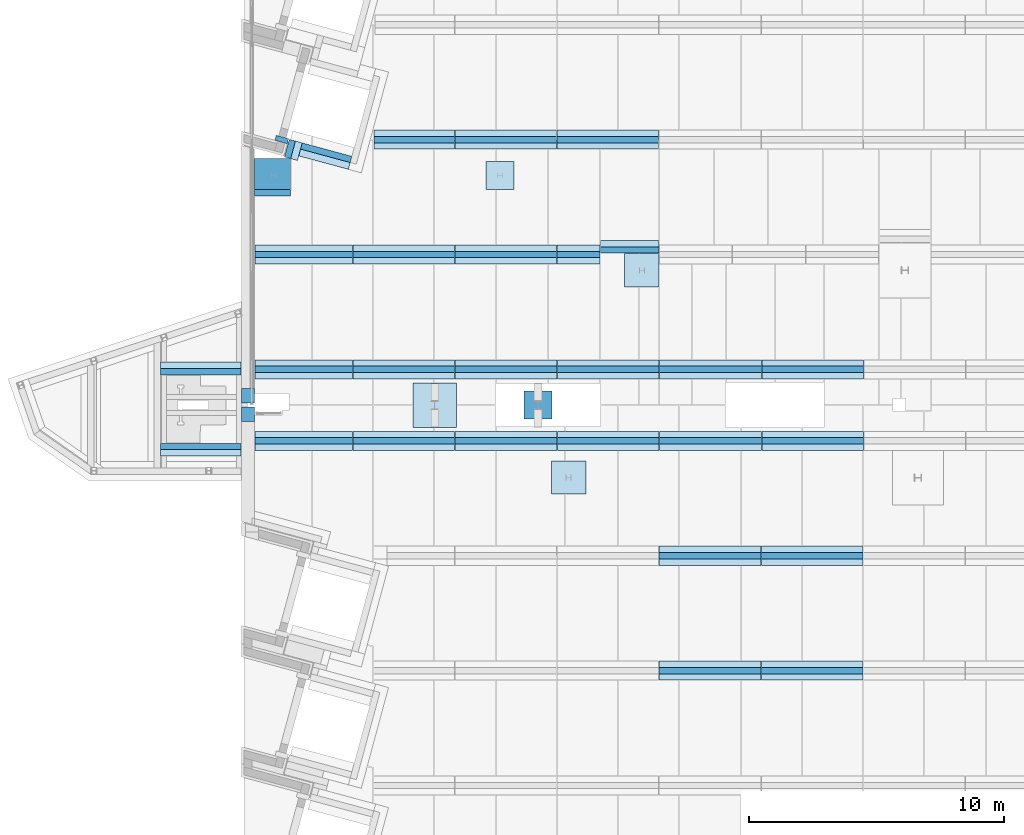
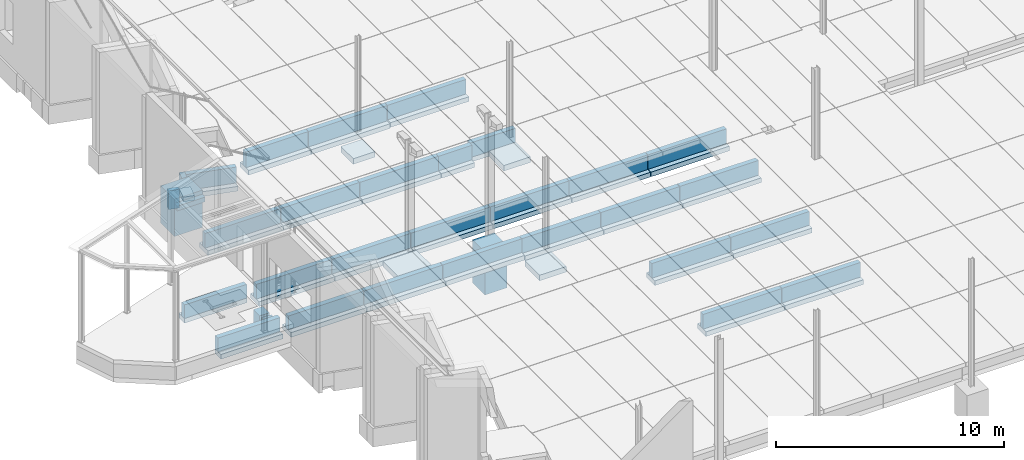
# One storey, part 2 of 59: 66 footings.
"""IFC2X3 building model written with IfcOpenShell, lengths in metres."""

from ifc_helpers import new_model, entity, si_unit, converted_unit, derived_unit, frame, frame_2d, origin, origin_with_axes, place, context, subcontext, project, spatial, rectangle, extrude, material, element, save


model = new_model("IFC2X3")

# Units and contexts
model_context = context("Model", 3, precision=1e-05, world=origin())
body_context = subcontext(model_context, "Body", "Model", "MODEL_VIEW")
ifc_project = project(units=[si_unit("LENGTHUNIT", "METRE"), si_unit("AREAUNIT", "SQUARE_METRE"), si_unit("VOLUMEUNIT", "CUBIC_METRE"), si_unit("MASSUNIT", "GRAM", prefix="KILO"), converted_unit("PLANEANGLEUNIT", "DEGREE", entity("IfcPlaneAngleMeasure", 0.0174532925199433), si_unit("PLANEANGLEUNIT", "RADIAN"), dimensions=[0, 0, 0, 0, 0, 0, 0]), derived_unit("THERMALTRANSMITTANCEUNIT", [(si_unit("POWERUNIT", "WATT"), 1), (si_unit("THERMODYNAMICTEMPERATUREUNIT", "KELVIN"), -1), (si_unit("LENGTHUNIT", "METRE"), -2)]), derived_unit("VOLUMETRICFLOWRATEUNIT", [(si_unit("LENGTHUNIT", "METRE"), 3), (converted_unit("TIMEUNIT", "hour", entity("IfcTimeMeasure", 3600.0), si_unit("TIMEUNIT", "SECOND"), dimensions=[0, 0, 1, 0, 0, 0, 0]), -1), (si_unit("LENGTHUNIT", "METRE"), -1)])], contexts=[model_context])

# Site, building, storey
site_placement = place(None, origin())
site = spatial("IfcSite", under=ifc_project, at=site_placement, Name="TWP_Speiseverteilzentrum SBW VZ II", CompositionType="ELEMENT")
building_placement = place(site_placement, origin())
building = spatial("IfcBuilding", under=site, at=building_placement, Name="Speiseverteilzentrum SBW VZ II", CompositionType="ELEMENT")
storey_placement = place(building_placement, frame((0.0, 0.0, 1.7307)))
storey = spatial("IfcBuildingStorey", under=building, at=storey_placement, Name="EG_Produktion_FFB", CompositionType="ELEMENT", Elevation=1.7307)

# Footings
ifc_material_1 = material(Name="Stahlbeton")
footing_1_placement = place(storey_placement, frame((15.9523755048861, 29.9251031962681, -1.45)))
element("IfcFooting", 1, at=footing_1_placement, inside=storey, material=ifc_material_1, Name="Stb.-Einzelfundament", ObjectType="COLUMN_FOUNDATION", PredefinedType="USERDEFINED", context=body_context, shape_type="SweptSolid", body=[
    extrude(rectangle(XDim=1.7, YDim=1.75, at=frame_2d((0.85, 0.875), x_axis=(1.0, 0.0))), origin_with_axes(), (0.0, 0.0, 1.0), 0.3),
])
ifc_material_2 = material(Name="Stahlbeton")
footing_2_placement = place(storey_placement, frame((18.8149133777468, 39.2498118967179, -1.55)))
element("IfcFooting", 2, at=footing_2_placement, inside=storey, material=ifc_material_2, Name="Stb.-Einzelfundament", ObjectType="COLUMN_FOUNDATION", PredefinedType="USERDEFINED", context=body_context, shape_type="SweptSolid", body=[
    extrude(rectangle(XDim=1.1, YDim=1.1, at=frame_2d((0.55, 0.55), x_axis=(1.0, 0.0))), origin_with_axes(), (0.0, 0.0, 1.0), 0.3),
])
ifc_material_3 = material(Name="Stahlbeton")
footing_3_placement = place(storey_placement, frame((21.3750000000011, 27.3099286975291, -1.45)))
element("IfcFooting", 3, at=footing_3_placement, inside=storey, material=ifc_material_3, Name="Stb.-Einzelfundament", ObjectType="COLUMN_FOUNDATION", PredefinedType="USERDEFINED", context=body_context, shape_type="SweptSolid", body=[
    extrude(rectangle(XDim=1.35, YDim=1.3, at=frame_2d((0.675, 0.65), x_axis=(1.0, 0.0))), origin_with_axes(), (0.0, 0.0, 1.0), 0.3),
])
ifc_material_4 = material(Name="Stahlbetonfertigteil")
footing_4_placement = place(storey_placement, frame((13.5999999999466, 29.2750000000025, -1.2)))
element("IfcFooting", 4, at=footing_4_placement, inside=storey, material=ifc_material_4, Name="Stahlbetonfertigteilfundament", PredefinedType="STRIP_FOOTING", context=body_context, shape_type="SweptSolid", body=[
    extrude(rectangle(XDim=0.25, YDim=0.73, at=frame_2d((0.125, 0.365), x_axis=(1.0, 0.0))), frame((0.0, 0.0, 0.0), z_axis=(1.0, 0.0, 0.0), x_axis=(0.0, 1.0, 0.0)), (0.0, 0.0, 1.0), 3.98),
])
ifc_material_5 = material(Name="Stahlbetonfertigteil")
footing_5_placement = place(storey_placement, frame((13.5999999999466, 29.0250000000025, -1.45)))
element("IfcFooting", 5, at=footing_5_placement, inside=storey, material=ifc_material_5, Name="Stahlbetonfertigteilfundament", PredefinedType="STRIP_FOOTING", context=body_context, shape_type="SweptSolid", body=[
    extrude(rectangle(XDim=0.75, YDim=0.25, at=frame_2d((0.375, 0.125), x_axis=(1.0, 0.0))), frame((0.0, 0.0, 0.0), z_axis=(1.0, 0.0, 0.0), x_axis=(0.0, 1.0, 0.0)), (0.0, 0.0, 1.0), 3.98),
])
ifc_material_6 = material(Name="Stahlbetonfertigteil")
footing_6_placement = place(storey_placement, frame((29.5999999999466, 24.5250000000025, -1.45)))
element("IfcFooting", 6, at=footing_6_placement, inside=storey, material=ifc_material_6, Name="Stahlbetonfertigteilfundament", PredefinedType="STRIP_FOOTING", context=body_context, shape_type="SweptSolid", body=[
    extrude(rectangle(XDim=0.75, YDim=0.25, at=frame_2d((0.375, 0.125), x_axis=(1.0, 0.0))), frame((0.0, 0.0, 0.0), z_axis=(1.0, 0.0, 0.0), x_axis=(0.0, 1.0, 0.0)), (0.0, 0.0, 1.0), 3.98),
])
ifc_material_7 = material(Name="Stahlbetonfertigteil")
footing_7_placement = place(storey_placement, frame((29.5999999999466, 24.7750000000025, -1.2)))
element("IfcFooting", 7, at=footing_7_placement, inside=storey, material=ifc_material_7, Name="Stahlbetonfertigteilfundament", PredefinedType="STRIP_FOOTING", context=body_context, shape_type="SweptSolid", body=[
    extrude(rectangle(XDim=0.25, YDim=0.73, at=frame_2d((0.125, 0.365), x_axis=(1.0, 0.0))), frame((0.0, 0.0, 0.0), z_axis=(1.0, 0.0, 0.0), x_axis=(0.0, 1.0, 0.0)), (0.0, 0.0, 1.0), 3.98),
])
ifc_material_8 = material(Name="Stahlbetonfertigteil")
footing_8_placement = place(storey_placement, frame((25.5999999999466, 24.5250000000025, -1.5)))
element("IfcFooting", 8, at=footing_8_placement, inside=storey, material=ifc_material_8, Name="Stahlbetonfertigteilfundament", PredefinedType="STRIP_FOOTING", context=body_context, shape_type="SweptSolid", body=[
    extrude(rectangle(XDim=0.75, YDim=0.25, at=frame_2d((0.375, 0.125), x_axis=(1.0, 0.0))), frame((0.0, 0.0, 0.0), z_axis=(1.0, 0.0, 0.0), x_axis=(0.0, 1.0, 0.0)), (0.0, 0.0, 1.0), 3.98),
])
ifc_material_9 = material(Name="Stahlbetonfertigteil")
footing_9_placement = place(storey_placement, frame((25.5999999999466, 24.7750000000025, -1.25)))
element("IfcFooting", 9, at=footing_9_placement, inside=storey, material=ifc_material_9, Name="Stahlbetonfertigteilfundament", PredefinedType="STRIP_FOOTING", context=body_context, shape_type="SweptSolid", body=[
    extrude(rectangle(XDim=0.25, YDim=0.78, at=frame_2d((0.125, 0.39), x_axis=(1.0, 0.0))), frame((0.0, 0.0, 0.0), z_axis=(1.0, 0.0, 0.0), x_axis=(0.0, 1.0, 0.0)), (0.0, 0.0, 1.0), 3.98),
])
ifc_material_10 = material(Name="Stahlbetonfertigteil")
footing_10_placement = place(storey_placement, frame((29.5999999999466, 20.0250000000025, -1.5)))
element("IfcFooting", 10, at=footing_10_placement, inside=storey, material=ifc_material_10, Name="Stahlbetonfertigteilfundament", PredefinedType="STRIP_FOOTING", context=body_context, shape_type="SweptSolid", body=[
    extrude(rectangle(XDim=0.75, YDim=0.25, at=frame_2d((0.375, 0.125), x_axis=(1.0, 0.0))), frame((0.0, 0.0, 0.0), z_axis=(1.0, 0.0, 0.0), x_axis=(0.0, 1.0, 0.0)), (0.0, 0.0, 1.0), 3.98),
])
ifc_material_11 = material(Name="Stahlbetonfertigteil")
footing_11_placement = place(storey_placement, frame((29.5999999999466, 20.2750000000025, -1.25)))
element("IfcFooting", 11, at=footing_11_placement, inside=storey, material=ifc_material_11, Name="Stahlbetonfertigteilfundament", PredefinedType="STRIP_FOOTING", context=body_context, shape_type="SweptSolid", body=[
    extrude(rectangle(XDim=0.25, YDim=0.78, at=frame_2d((0.125, 0.39), x_axis=(1.0, 0.0))), frame((0.0, 0.0, 0.0), z_axis=(1.0, 0.0, 0.0), x_axis=(0.0, 1.0, 0.0)), (0.0, 0.0, 1.0), 3.98),
])
ifc_material_12 = material(Name="Stahlbetonfertigteil")
footing_12_placement = place(storey_placement, frame((25.5999999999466, 20.0250000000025, -1.5)))
element("IfcFooting", 12, at=footing_12_placement, inside=storey, material=ifc_material_12, Name="Stahlbetonfertigteilfundament", PredefinedType="STRIP_FOOTING", context=body_context, shape_type="SweptSolid", body=[
    extrude(rectangle(XDim=0.75, YDim=0.25, at=frame_2d((0.375, 0.125), x_axis=(1.0, 0.0))), frame((0.0, 0.0, 0.0), z_axis=(1.0, 0.0, 0.0), x_axis=(0.0, 1.0, 0.0)), (0.0, 0.0, 1.0), 3.98),
])
ifc_material_13 = material(Name="Stahlbetonfertigteil")
footing_13_placement = place(storey_placement, frame((25.5999999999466, 20.2750000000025, -1.25)))
element("IfcFooting", 13, at=footing_13_placement, inside=storey, material=ifc_material_13, Name="Stahlbetonfertigteilfundament", PredefinedType="STRIP_FOOTING", context=body_context, shape_type="SweptSolid", body=[
    extrude(rectangle(XDim=0.25, YDim=0.78, at=frame_2d((0.125, 0.39), x_axis=(1.0, 0.0))), frame((0.0, 0.0, 0.0), z_axis=(1.0, 0.0, 0.0), x_axis=(0.0, 1.0, 0.0)), (0.0, 0.0, 1.0), 3.98),
])
ifc_material_14 = material(Name="Stahlbetonfertigteil")
footing_14_placement = place(storey_placement, frame((13.5999999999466, 32.0750000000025, -1.25)))
element("IfcFooting", 14, at=footing_14_placement, inside=storey, material=ifc_material_14, Name="Stahlbetonfertigteilfundament", PredefinedType="STRIP_FOOTING", context=body_context, shape_type="SweptSolid", body=[
    extrude(rectangle(XDim=0.25, YDim=0.78, at=frame_2d((0.125, 0.39), x_axis=(1.0, 0.0))), frame((0.0, 0.0, 0.0), z_axis=(1.0, 0.0, 0.0), x_axis=(0.0, 1.0, 0.0)), (0.0, 0.0, 1.0), 3.98),
])
ifc_material_15 = material(Name="Stahlbetonfertigteil")
footing_15_placement = place(storey_placement, frame((13.5999999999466, 31.8250000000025, -1.5)))
element("IfcFooting", 15, at=footing_15_placement, inside=storey, material=ifc_material_15, Name="Stahlbetonfertigteilfundament", PredefinedType="STRIP_FOOTING", context=body_context, shape_type="SweptSolid", body=[
    extrude(rectangle(XDim=0.75, YDim=0.25, at=frame_2d((0.375, 0.125), x_axis=(1.0, 0.0))), frame((0.0, 0.0, 0.0), z_axis=(1.0, 0.0, 0.0), x_axis=(0.0, 1.0, 0.0)), (0.0, 0.0, 1.0), 3.98),
])
ifc_material_16 = material(Name="Stahlbetonfertigteil")
footing_16_placement = place(storey_placement, frame((25.6199999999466, 29.2750000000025, -1.25)))
element("IfcFooting", 16, at=footing_16_placement, inside=storey, material=ifc_material_16, Name="Stahlbetonfertigteilfundament", PredefinedType="STRIP_FOOTING", context=body_context, shape_type="SweptSolid", body=[
    extrude(rectangle(XDim=0.25, YDim=0.78, at=frame_2d((0.125, 0.39), x_axis=(1.0, 0.0))), frame((0.0, 0.0, 0.0), z_axis=(1.0, 0.0, 0.0), x_axis=(0.0, 1.0, 0.0)), (0.0, 0.0, 1.0), 3.98),
])
ifc_material_17 = material(Name="Stahlbetonfertigteil")
footing_17_placement = place(storey_placement, frame((29.6199999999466, 29.2750000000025, -1.25)))
element("IfcFooting", 17, at=footing_17_placement, inside=storey, material=ifc_material_17, Name="Stahlbetonfertigteilfundament", PredefinedType="STRIP_FOOTING", context=body_context, shape_type="SweptSolid", body=[
    extrude(rectangle(XDim=0.25, YDim=0.78, at=frame_2d((0.125, 0.39), x_axis=(1.0, 0.0))), frame((0.0, 0.0, 0.0), z_axis=(1.0, 0.0, 0.0), x_axis=(0.0, 1.0, 0.0)), (0.0, 0.0, 1.0), 3.98),
])
ifc_material_18 = material(Name="Stahlbetonfertigteil")
footing_18_placement = place(storey_placement, frame((29.6199999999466, 29.0250000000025, -1.5)))
element("IfcFooting", 18, at=footing_18_placement, inside=storey, material=ifc_material_18, Name="Stahlbetonfertigteilfundament", PredefinedType="STRIP_FOOTING", context=body_context, shape_type="SweptSolid", body=[
    extrude(rectangle(XDim=0.75, YDim=0.25, at=frame_2d((0.375, 0.125), x_axis=(1.0, 0.0))), frame((0.0, 0.0, 0.0), z_axis=(1.0, 0.0, 0.0), x_axis=(0.0, 1.0, 0.0)), (0.0, 0.0, 1.0), 3.98),
])
ifc_material_19 = material(Name="Stahlbetonfertigteil")
footing_19_placement = place(storey_placement, frame((25.6199999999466, 29.0250000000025, -1.5)))
element("IfcFooting", 19, at=footing_19_placement, inside=storey, material=ifc_material_19, Name="Stahlbetonfertigteilfundament", PredefinedType="STRIP_FOOTING", context=body_context, shape_type="SweptSolid", body=[
    extrude(rectangle(XDim=0.75, YDim=0.25, at=frame_2d((0.375, 0.125), x_axis=(1.0, 0.0))), frame((0.0, 0.0, 0.0), z_axis=(1.0, 0.0, 0.0), x_axis=(0.0, 1.0, 0.0)), (0.0, 0.0, 1.0), 3.98),
])
ifc_material_20 = material(Name="Stahlbetonfertigteil")
footing_20_placement = place(storey_placement, frame((29.6200000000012, 31.8250000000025, -1.5)))
element("IfcFooting", 20, at=footing_20_placement, inside=storey, material=ifc_material_20, Name="Stahlbetonfertigteilfundament", PredefinedType="STRIP_FOOTING", context=body_context, shape_type="SweptSolid", body=[
    extrude(rectangle(XDim=0.75, YDim=0.25, at=frame_2d((0.375, 0.125), x_axis=(1.0, 0.0))), frame((0.0, 0.0, 0.0), z_axis=(1.0, 0.0, 0.0), x_axis=(0.0, 1.0, 0.0)), (0.0, 0.0, 1.0), 3.98),
])
ifc_material_21 = material(Name="Stahlbetonfertigteil")
footing_21_placement = place(storey_placement, frame((29.6200000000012, 32.0750000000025, -1.25)))
element("IfcFooting", 21, at=footing_21_placement, inside=storey, material=ifc_material_21, Name="Stahlbetonfertigteilfundament", PredefinedType="STRIP_FOOTING", context=body_context, shape_type="SweptSolid", body=[
    extrude(rectangle(XDim=0.25, YDim=0.78, at=frame_2d((0.125, 0.39), x_axis=(1.0, 0.0))), frame((0.0, 0.0, 0.0), z_axis=(1.0, 0.0, 0.0), x_axis=(0.0, 1.0, 0.0)), (0.0, 0.0, 1.0), 3.98),
])
ifc_material_22 = material(Name="Stahlbetonfertigteil")
footing_22_placement = place(storey_placement, frame((25.6200000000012, 32.0750000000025, -1.25)))
element("IfcFooting", 22, at=footing_22_placement, inside=storey, material=ifc_material_22, Name="Stahlbetonfertigteilfundament", PredefinedType="STRIP_FOOTING", context=body_context, shape_type="SweptSolid", body=[
    extrude(rectangle(XDim=0.25, YDim=0.78, at=frame_2d((0.125, 0.39), x_axis=(1.0, 0.0))), frame((0.0, 0.0, 0.0), z_axis=(1.0, 0.0, 0.0), x_axis=(0.0, 1.0, 0.0)), (0.0, 0.0, 1.0), 3.98),
])
ifc_material_23 = material(Name="Stahlbetonfertigteil")
footing_23_placement = place(storey_placement, frame((25.6200000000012, 31.8250000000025, -1.5)))
element("IfcFooting", 23, at=footing_23_placement, inside=storey, material=ifc_material_23, Name="Stahlbetonfertigteilfundament", PredefinedType="STRIP_FOOTING", context=body_context, shape_type="SweptSolid", body=[
    extrude(rectangle(XDim=0.75, YDim=0.25, at=frame_2d((0.375, 0.125), x_axis=(1.0, 0.0))), frame((0.0, 0.0, 0.0), z_axis=(1.0, 0.0, 0.0), x_axis=(0.0, 1.0, 0.0)), (0.0, 0.0, 1.0), 3.98),
])
ifc_material_24 = material(Name="Stahlbetonfertigteil")
footing_24_placement = place(storey_placement, frame((21.6200000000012, 31.8250000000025, -1.5)))
element("IfcFooting", 24, at=footing_24_placement, inside=storey, material=ifc_material_24, Name="Stahlbetonfertigteilfundament", PredefinedType="STRIP_FOOTING", context=body_context, shape_type="SweptSolid", body=[
    extrude(rectangle(XDim=0.75, YDim=0.25, at=frame_2d((0.375, 0.125), x_axis=(1.0, 0.0))), frame((0.0, 0.0, 0.0), z_axis=(1.0, 0.0, 0.0), x_axis=(0.0, 1.0, 0.0)), (0.0, 0.0, 1.0), 3.98),
])
ifc_material_25 = material(Name="Stahlbetonfertigteil")
footing_25_placement = place(storey_placement, frame((21.6200000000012, 32.0750000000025, -1.25)))
element("IfcFooting", 25, at=footing_25_placement, inside=storey, material=ifc_material_25, Name="Stahlbetonfertigteilfundament", PredefinedType="STRIP_FOOTING", context=body_context, shape_type="SweptSolid", body=[
    extrude(rectangle(XDim=0.25, YDim=0.78, at=frame_2d((0.125, 0.39), x_axis=(1.0, 0.0))), frame((0.0, 0.0, 0.0), z_axis=(1.0, 0.0, 0.0), x_axis=(0.0, 1.0, 0.0)), (0.0, 0.0, 1.0), 3.98),
])
ifc_material_26 = material(Name="Stahlbetonfertigteil")
footing_26_placement = place(storey_placement, frame((21.6200000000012, 29.0250000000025, -1.5)))
element("IfcFooting", 26, at=footing_26_placement, inside=storey, material=ifc_material_26, Name="Stahlbetonfertigteilfundament", PredefinedType="STRIP_FOOTING", context=body_context, shape_type="SweptSolid", body=[
    extrude(rectangle(XDim=0.75, YDim=0.25, at=frame_2d((0.375, 0.125), x_axis=(1.0, 0.0))), frame((0.0, 0.0, 0.0), z_axis=(1.0, 0.0, 0.0), x_axis=(0.0, 1.0, 0.0)), (0.0, 0.0, 1.0), 3.97999999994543),
])
ifc_material_27 = material(Name="Stahlbetonfertigteil")
footing_27_placement = place(storey_placement, frame((21.6200000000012, 29.2750000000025, -1.25)))
element("IfcFooting", 27, at=footing_27_placement, inside=storey, material=ifc_material_27, Name="Stahlbetonfertigteilfundament", PredefinedType="STRIP_FOOTING", context=body_context, shape_type="SweptSolid", body=[
    extrude(rectangle(XDim=0.25, YDim=0.78, at=frame_2d((0.125, 0.39), x_axis=(1.0, 0.0))), frame((0.0, 0.0, 0.0), z_axis=(1.0, 0.0, 0.0), x_axis=(0.0, 1.0, 0.0)), (0.0, 0.0, 1.0), 3.97999999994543),
])
ifc_material_28 = material(Name="Stahlbetonfertigteil")
footing_28_placement = place(storey_placement, frame((17.5999999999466, 29.2750000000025, -1.2)))
element("IfcFooting", 28, at=footing_28_placement, inside=storey, material=ifc_material_28, Name="Stahlbetonfertigteilfundament", PredefinedType="STRIP_FOOTING", context=body_context, shape_type="SweptSolid", body=[
    extrude(rectangle(XDim=0.25, YDim=0.73, at=frame_2d((0.125, 0.365), x_axis=(1.0, 0.0))), frame((0.0, 0.0, 0.0), z_axis=(1.0, 0.0, 0.0), x_axis=(0.0, 1.0, 0.0)), (0.0, 0.0, 1.0), 4.0),
])
ifc_material_29 = material(Name="Stahlbetonfertigteil")
footing_29_placement = place(storey_placement, frame((17.5999999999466, 29.0250000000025, -1.45)))
element("IfcFooting", 29, at=footing_29_placement, inside=storey, material=ifc_material_29, Name="Stahlbetonfertigteilfundament", PredefinedType="STRIP_FOOTING", context=body_context, shape_type="SweptSolid", body=[
    extrude(rectangle(XDim=0.75, YDim=0.25, at=frame_2d((0.375, 0.125), x_axis=(1.0, 0.0))), frame((0.0, 0.0, 0.0), z_axis=(1.0, 0.0, 0.0), x_axis=(0.0, 1.0, 0.0)), (0.0, 0.0, 1.0), 4.0),
])
ifc_material_30 = material(Name="Stahlbetonfertigteil")
footing_30_placement = place(storey_placement, frame((17.5999999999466, 32.0750000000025, -1.25)))
element("IfcFooting", 30, at=footing_30_placement, inside=storey, material=ifc_material_30, Name="Stahlbetonfertigteilfundament", PredefinedType="STRIP_FOOTING", context=body_context, shape_type="SweptSolid", body=[
    extrude(rectangle(XDim=0.25, YDim=0.78, at=frame_2d((0.125, 0.39), x_axis=(1.0, 0.0))), frame((0.0, 0.0, 0.0), z_axis=(1.0, 0.0, 0.0), x_axis=(0.0, 1.0, 0.0)), (0.0, 0.0, 1.0), 4.0),
])
ifc_material_31 = material(Name="Stahlbetonfertigteil")
footing_31_placement = place(storey_placement, frame((17.5999999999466, 31.8250000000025, -1.5)))
element("IfcFooting", 31, at=footing_31_placement, inside=storey, material=ifc_material_31, Name="Stahlbetonfertigteilfundament", PredefinedType="STRIP_FOOTING", context=body_context, shape_type="SweptSolid", body=[
    extrude(rectangle(XDim=0.75, YDim=0.25, at=frame_2d((0.375, 0.125), x_axis=(1.0, 0.0))), frame((0.0, 0.0, 0.0), z_axis=(1.0, 0.0, 0.0), x_axis=(0.0, 1.0, 0.0)), (0.0, 0.0, 1.0), 4.0),
])
ifc_material_32 = material(Name="Stahlbetonfertigteil")
footing_32_placement = place(storey_placement, frame((17.5999999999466, 36.5750000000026, -1.25)))
element("IfcFooting", 32, at=footing_32_placement, inside=storey, material=ifc_material_32, Name="Stahlbetonfertigteilfundament", PredefinedType="STRIP_FOOTING", context=body_context, shape_type="SweptSolid", body=[
    extrude(rectangle(XDim=0.25, YDim=0.78, at=frame_2d((0.125, 0.39), x_axis=(1.0, 0.0))), frame((0.0, 0.0, 0.0), z_axis=(1.0, 0.0, 0.0), x_axis=(0.0, 1.0, 0.0)), (0.0, 0.0, 1.0), 3.98000000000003),
])
ifc_material_33 = material(Name="Stahlbetonfertigteil")
footing_33_placement = place(storey_placement, frame((17.5999999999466, 36.3250000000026, -1.5)))
element("IfcFooting", 33, at=footing_33_placement, inside=storey, material=ifc_material_33, Name="Stahlbetonfertigteilfundament", PredefinedType="STRIP_FOOTING", context=body_context, shape_type="SweptSolid", body=[
    extrude(rectangle(XDim=0.75, YDim=0.25, at=frame_2d((0.375, 0.125), x_axis=(1.0, 0.0))), frame((0.0, 0.0, 0.0), z_axis=(1.0, 0.0, 0.0), x_axis=(0.0, 1.0, 0.0)), (0.0, 0.0, 1.0), 3.98000000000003),
])
ifc_material_34 = material(Name="Stahlbetonfertigteil")
footing_34_placement = place(storey_placement, frame((13.5999999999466, 36.5750000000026, -1.25)))
element("IfcFooting", 34, at=footing_34_placement, inside=storey, material=ifc_material_34, Name="Stahlbetonfertigteilfundament", PredefinedType="STRIP_FOOTING", context=body_context, shape_type="SweptSolid", body=[
    extrude(rectangle(XDim=0.25, YDim=0.78, at=frame_2d((0.125, 0.39), x_axis=(1.0, 0.0))), frame((0.0, 0.0, 0.0), z_axis=(1.0, 0.0, 0.0), x_axis=(0.0, 1.0, 0.0)), (0.0, 0.0, 1.0), 3.98),
])
ifc_material_35 = material(Name="Stahlbetonfertigteil")
footing_35_placement = place(storey_placement, frame((13.5999999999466, 36.3250000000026, -1.5)))
element("IfcFooting", 35, at=footing_35_placement, inside=storey, material=ifc_material_35, Name="Stahlbetonfertigteilfundament", PredefinedType="STRIP_FOOTING", context=body_context, shape_type="SweptSolid", body=[
    extrude(rectangle(XDim=0.75, YDim=0.25, at=frame_2d((0.375, 0.125), x_axis=(1.0, 0.0))), frame((0.0, 0.0, 0.0), z_axis=(1.0, 0.0, 0.0), x_axis=(0.0, 1.0, 0.0)), (0.0, 0.0, 1.0), 3.98),
])
ifc_material_36 = material(Name="Stahlbetonfertigteil")
footing_36_placement = place(storey_placement, frame((21.5999999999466, 41.0750000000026, -1.25)))
element("IfcFooting", 36, at=footing_36_placement, inside=storey, material=ifc_material_36, Name="Stahlbetonfertigteilfundament", PredefinedType="STRIP_FOOTING", context=body_context, shape_type="SweptSolid", body=[
    extrude(rectangle(XDim=0.25, YDim=0.78, at=frame_2d((0.125, 0.39), x_axis=(1.0, 0.0))), frame((0.0, 0.0, 0.0), z_axis=(1.0, 0.0, 0.0), x_axis=(0.0, 1.0, 0.0)), (0.0, 0.0, 1.0), 3.98),
])
ifc_material_37 = material(Name="Stahlbetonfertigteil")
footing_37_placement = place(storey_placement, frame((21.5999999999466, 40.8250000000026, -1.5)))
element("IfcFooting", 37, at=footing_37_placement, inside=storey, material=ifc_material_37, Name="Stahlbetonfertigteilfundament", PredefinedType="STRIP_FOOTING", context=body_context, shape_type="SweptSolid", body=[
    extrude(rectangle(XDim=0.75, YDim=0.25, at=frame_2d((0.375, 0.125), x_axis=(1.0, 0.0))), frame((0.0, 0.0, 0.0), z_axis=(1.0, 0.0, 0.0), x_axis=(0.0, 1.0, 0.0)), (0.0, 0.0, 1.0), 3.98),
])
ifc_material_38 = material(Name="Stahlbetonfertigteil")
footing_38_placement = place(storey_placement, frame((17.5999999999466, 40.8250000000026, -1.55)))
element("IfcFooting", 38, at=footing_38_placement, inside=storey, material=ifc_material_38, Name="Stahlbetonfertigteilfundament", PredefinedType="STRIP_FOOTING", context=body_context, shape_type="SweptSolid", body=[
    extrude(rectangle(XDim=0.75, YDim=0.25, at=frame_2d((0.375, 0.125), x_axis=(1.0, 0.0))), frame((0.0, 0.0, 0.0), z_axis=(1.0, 0.0, 0.0), x_axis=(0.0, 1.0, 0.0)), (0.0, 0.0, 1.0), 3.98),
])
ifc_material_39 = material(Name="Stahlbetonfertigteil")
footing_39_placement = place(storey_placement, frame((17.5999999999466, 41.0750000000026, -1.3)))
element("IfcFooting", 39, at=footing_39_placement, inside=storey, material=ifc_material_39, Name="Stahlbetonfertigteilfundament", PredefinedType="STRIP_FOOTING", context=body_context, shape_type="SweptSolid", body=[
    extrude(rectangle(XDim=0.25, YDim=0.83, at=frame_2d((0.125, 0.415), x_axis=(1.0, 0.0))), frame((0.0, 0.0, 0.0), z_axis=(1.0, 0.0, 0.0), x_axis=(0.0, 1.0, 0.0)), (0.0, 0.0, 1.0), 3.98),
])
ifc_material_40 = material(Name="Stahlbetonfertigteil")
footing_40_placement = place(storey_placement, frame((9.7599999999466, 31.8250000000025, -1.5)))
element("IfcFooting", 40, at=footing_40_placement, inside=storey, material=ifc_material_40, Name="Stahlbetonfertigteilfundament", PredefinedType="STRIP_FOOTING", context=body_context, shape_type="SweptSolid", body=[
    extrude(rectangle(XDim=0.75, YDim=0.25, at=frame_2d((0.375, 0.125), x_axis=(1.0, 0.0))), frame((0.0, 0.0, 0.0), z_axis=(1.0, 0.0, 0.0), x_axis=(0.0, 1.0, 0.0)), (0.0, 0.0, 1.0), 3.82),
])
ifc_material_41 = material(Name="Stahlbetonfertigteil")
footing_41_placement = place(storey_placement, frame((9.7599999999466, 32.0750000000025, -1.25)))
element("IfcFooting", 41, at=footing_41_placement, inside=storey, material=ifc_material_41, Name="Stahlbetonfertigteilfundament", PredefinedType="STRIP_FOOTING", context=body_context, shape_type="SweptSolid", body=[
    extrude(rectangle(XDim=0.25, YDim=0.78, at=frame_2d((0.125, 0.39), x_axis=(1.0, 0.0))), frame((0.0, 0.0, 0.0), z_axis=(1.0, 0.0, 0.0), x_axis=(0.0, 1.0, 0.0)), (0.0, 0.0, 1.0), 3.82),
])
ifc_material_42 = material(Name="Stahlbetonfertigteil")
footing_42_placement = place(storey_placement, frame((9.7599999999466, 29.0250000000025, -1.45)))
element("IfcFooting", 42, at=footing_42_placement, inside=storey, material=ifc_material_42, Name="Stahlbetonfertigteilfundament", PredefinedType="STRIP_FOOTING", context=body_context, shape_type="SweptSolid", body=[
    extrude(rectangle(XDim=0.75, YDim=0.25, at=frame_2d((0.375, 0.125), x_axis=(1.0, 0.0))), frame((0.0, 0.0, 0.0), z_axis=(1.0, 0.0, 0.0), x_axis=(0.0, 1.0, 0.0)), (0.0, 0.0, 1.0), 3.82),
])
ifc_material_43 = material(Name="Stahlbetonfertigteil")
footing_43_placement = place(storey_placement, frame((9.7599999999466, 29.2750000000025, -1.2)))
element("IfcFooting", 43, at=footing_43_placement, inside=storey, material=ifc_material_43, Name="Stahlbetonfertigteilfundament", PredefinedType="STRIP_FOOTING", context=body_context, shape_type="SweptSolid", body=[
    extrude(rectangle(XDim=0.25, YDim=0.73, at=frame_2d((0.125, 0.365), x_axis=(1.0, 0.0))), frame((0.0, 0.0, 0.0), z_axis=(1.0, 0.0, 0.0), x_axis=(0.0, 1.0, 0.0)), (0.0, 0.0, 1.0), 3.82),
])
ifc_material_44 = material(Name="Stahlbetonfertigteil")
footing_44_placement = place(storey_placement, frame((9.7599999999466, 36.3250000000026, -1.5)))
element("IfcFooting", 44, at=footing_44_placement, inside=storey, material=ifc_material_44, Name="Stahlbetonfertigteilfundament", PredefinedType="STRIP_FOOTING", context=body_context, shape_type="SweptSolid", body=[
    extrude(rectangle(XDim=0.75, YDim=0.25, at=frame_2d((0.375, 0.125), x_axis=(1.0, 0.0))), frame((0.0, 0.0, 0.0), z_axis=(1.0, 0.0, 0.0), x_axis=(0.0, 1.0, 0.0)), (0.0, 0.0, 1.0), 3.82),
])
ifc_material_45 = material(Name="Stahlbetonfertigteil")
footing_45_placement = place(storey_placement, frame((9.7599999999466, 36.5750000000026, -1.25)))
element("IfcFooting", 45, at=footing_45_placement, inside=storey, material=ifc_material_45, Name="Stahlbetonfertigteilfundament", PredefinedType="STRIP_FOOTING", context=body_context, shape_type="SweptSolid", body=[
    extrude(rectangle(XDim=0.25, YDim=0.78, at=frame_2d((0.125, 0.39), x_axis=(1.0, 0.0))), frame((0.0, 0.0, 0.0), z_axis=(1.0, 0.0, 0.0), x_axis=(0.0, 1.0, 0.0)), (0.0, 0.0, 1.0), 3.82),
])
ifc_material_46 = material(Name="Stahlbeton")
footing_46_placement = place(storey_placement, frame((20.3000000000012, 30.2501031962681, -3.62)))
element("IfcFooting", 46, at=footing_46_placement, inside=storey, material=ifc_material_46, Name="Stb.-Einzelfundament", ObjectType="COLUMN_FOUNDATION", PredefinedType="USERDEFINED", context=body_context, shape_type="SweptSolid", body=[
    extrude(rectangle(XDim=1.1, YDim=1.1, at=frame_2d((0.55, 0.549999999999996), x_axis=(1.0, 0.0))), origin_with_axes(), (0.0, 0.0, 1.0), 2.3),
])
ifc_material_47 = material(Name="Stahlbeton")
footing_47_placement = place(storey_placement, frame((24.2498606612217, 35.4298478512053, -1.5)))
element("IfcFooting", 47, at=footing_47_placement, inside=storey, material=ifc_material_47, Name="Stb.-Einzelfundament", ObjectType="COLUMN_FOUNDATION", PredefinedType="USERDEFINED", context=body_context, shape_type="SweptSolid", body=[
    extrude(rectangle(XDim=1.35, YDim=1.3, at=frame_2d((0.675, 0.65), x_axis=(1.0, 0.0))), origin_with_axes(), (0.0, 0.0, 1.0), 0.3),
])
ifc_material_48 = material(Name="Stahlbetonfertigteil")
footing_48_placement = place(storey_placement, frame((23.3011877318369, 36.7498478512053, -1.25)))
element("IfcFooting", 48, at=footing_48_placement, inside=storey, material=ifc_material_48, Name="Stahlbetonfertigteilfundament", PredefinedType="STRIP_FOOTING", context=body_context, shape_type="SweptSolid", body=[
    extrude(rectangle(XDim=0.25, YDim=0.78, at=frame_2d((0.125, 0.39), x_axis=(1.0, 0.0))), frame((0.0, 0.0, 0.0), z_axis=(1.0, 0.0, 0.0), x_axis=(0.0, 1.0, 0.0)), (0.0, 0.0, 1.0), 2.29867292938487),
])
ifc_material_49 = material(Name="Stahlbetonfertigteil")
footing_49_placement = place(storey_placement, frame((23.3011877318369, 36.7498478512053, -1.5)))
element("IfcFooting", 49, at=footing_49_placement, inside=storey, material=ifc_material_49, Name="Stahlbetonfertigteilfundament", PredefinedType="STRIP_FOOTING", context=body_context, shape_type="SweptSolid", body=[
    extrude(rectangle(XDim=0.500000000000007, YDim=0.25, at=frame_2d((0.250000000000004, 0.125), x_axis=(1.0, 0.0))), frame((0.0, 0.0, 0.0), z_axis=(1.0, 0.0, 0.0), x_axis=(0.0, 1.0, 0.0)), (0.0, 0.0, 1.0), 2.29867292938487),
])
ifc_material_50 = material(Name="Stahlbetonfertigteil")
footing_50_placement = place(storey_placement, frame((21.5999999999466, 36.5750000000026, -1.25)))
element("IfcFooting", 50, at=footing_50_placement, inside=storey, material=ifc_material_50, Name="Stahlbetonfertigteilfundament", PredefinedType="STRIP_FOOTING", context=body_context, shape_type="SweptSolid", body=[
    extrude(rectangle(XDim=0.25, YDim=0.78, at=frame_2d((0.125, 0.39), x_axis=(1.0, 0.0))), frame((0.0, 0.0, 0.0), z_axis=(1.0, 0.0, 0.0), x_axis=(0.0, 1.0, 0.0)), (0.0, 0.0, 1.0), 1.6811877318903),
])
ifc_material_51 = material(Name="Stahlbetonfertigteil")
footing_51_placement = place(storey_placement, frame((21.5999999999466, 36.3250000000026, -1.5)))
element("IfcFooting", 51, at=footing_51_placement, inside=storey, material=ifc_material_51, Name="Stahlbetonfertigteilfundament", PredefinedType="STRIP_FOOTING", context=body_context, shape_type="SweptSolid", body=[
    extrude(rectangle(XDim=0.75, YDim=0.25, at=frame_2d((0.375, 0.125), x_axis=(1.0, 0.0))), frame((0.0, 0.0, 0.0), z_axis=(1.0, 0.0, 0.0), x_axis=(0.0, 1.0, 0.0)), (0.0, 0.0, 1.0), 1.6811877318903),
])
ifc_material_52 = material(Name="Stahlbetonfertigteil")
footing_52_placement = place(storey_placement, frame((14.4218792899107, 40.8250000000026, -1.55)))
element("IfcFooting", 52, at=footing_52_placement, inside=storey, material=ifc_material_52, Name="Stahlbetonfertigteilfundament", PredefinedType="STRIP_FOOTING", context=body_context, shape_type="SweptSolid", body=[
    extrude(rectangle(XDim=0.75, YDim=0.25, at=frame_2d((0.375, 0.125), x_axis=(1.0, 0.0))), frame((0.0, 0.0, 0.0), z_axis=(1.0, 0.0, 0.0), x_axis=(0.0, 1.0, 0.0)), (0.0, 0.0, 1.0), 3.15812071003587),
])
ifc_material_53 = material(Name="Stahlbetonfertigteil")
footing_53_placement = place(storey_placement, frame((14.4218792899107, 41.0750000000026, -1.3)))
element("IfcFooting", 53, at=footing_53_placement, inside=storey, material=ifc_material_53, Name="Stahlbetonfertigteilfundament", PredefinedType="STRIP_FOOTING", context=body_context, shape_type="SweptSolid", body=[
    extrude(rectangle(XDim=0.25, YDim=0.83, at=frame_2d((0.125, 0.415), x_axis=(1.0, 0.0))), frame((0.0, 0.0, 0.0), z_axis=(1.0, 0.0, 0.0), x_axis=(0.0, 1.0, 0.0)), (0.0, 0.0, 1.0), 3.15812071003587),
])
ifc_material_54 = material(Name="Stahlbeton")
footing_54_placement = place(storey_placement, frame((10.6024305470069, 41.3636388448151, -2.25), z_axis=(0.0, 0.0, 1.0), x_axis=(-0.261013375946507, -0.965335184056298, 0.0)))
element("IfcFooting", 54, at=footing_54_placement, inside=storey, material=ifc_material_54, Name="Stb.-Streifenfundament", PredefinedType="STRIP_FOOTING", context=body_context, shape_type="SweptSolid", body=[
    extrude(rectangle(XDim=0.5, YDim=1.0, at=frame_2d((0.25, 0.5), x_axis=(1.0, 0.0))), frame((0.0, 0.0, 0.0), z_axis=(1.0, 0.0, 0.0), x_axis=(0.0, 1.0, 0.0)), (0.0, 0.0, 1.0), 0.200000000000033),
])
ifc_material_55 = material(Name="Stahlbeton")
footing_55_placement = place(storey_placement, frame((9.73999999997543, 30.1501094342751, -1.967), z_axis=(0.0, 0.0, 1.0), x_axis=(0.0, 1.0, 0.0)))
element("IfcFooting", 55, at=footing_55_placement, inside=storey, material=ifc_material_55, Name="Stb.-Streifenfundament", PredefinedType="STRIP_FOOTING", context=body_context, shape_type="SweptSolid", body=[
    extrude(rectangle(XDim=0.5, YDim=0.717, at=frame_2d((0.25, 0.3585), x_axis=(1.0, 0.0))), frame((0.0, 0.0, 0.0), z_axis=(1.0, 0.0, 0.0), x_axis=(0.0, 1.0, 0.0)), (0.0, 0.0, 1.0), 0.569643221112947),
])
ifc_material_56 = material(Name="Stahlbeton")
footing_56_placement = place(storey_placement, frame((9.73999999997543, 30.8847526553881, -1.967), z_axis=(0.0, 0.0, 1.0), x_axis=(0.0, 1.0, 0.0)))
element("IfcFooting", 56, at=footing_56_placement, inside=storey, material=ifc_material_56, Name="Stb.-Streifenfundament", PredefinedType="STRIP_FOOTING", context=body_context, shape_type="SweptSolid", body=[
    extrude(rectangle(XDim=0.5, YDim=0.717, at=frame_2d((0.25, 0.3585), x_axis=(1.0, 0.0))), frame((0.0, 0.0, 0.0), z_axis=(1.0, 0.0, 0.0), x_axis=(0.0, 1.0, 0.0)), (0.0, 0.0, 1.0), 0.565356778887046),
])
ifc_material_57 = material(Name="Stahlbeton")
footing_57_placement = place(storey_placement, frame((9.73999999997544, 39.2498118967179, -2.25)))
element("IfcFooting", 57, at=footing_57_placement, inside=storey, material=ifc_material_57, Name="Stb.-Einzelfundament", ObjectType="COLUMN_FOUNDATION", PredefinedType="USERDEFINED", context=body_context, shape_type="SweptSolid", body=[
    extrude(rectangle(XDim=1.42485222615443, YDim=1.20554183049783, at=frame_2d((0.712426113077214, 0.602770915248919), x_axis=(1.0, 5.1064647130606e-15))), origin_with_axes(), (0.0, 0.0, 1.0), 2.0),
])
ifc_material_58 = material(Name="Stahlbeton")
footing_58_placement = place(storey_placement, frame((11.1088379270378, 41.2059950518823, -1.57), z_axis=(0.0, 0.0, 1.0), x_axis=(-0.261013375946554, -0.965335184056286, 0.0)))
element("IfcFooting", 58, at=footing_58_placement, inside=storey, material=ifc_material_58, Name="Stb.-Fundament", PredefinedType="STRIP_FOOTING", context=body_context, shape_type="SweptSolid", body=[
    extrude(rectangle(XDim=0.525000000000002, YDim=0.25, at=frame_2d((0.262500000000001, 0.125), x_axis=(1.0, 0.0))), frame((0.0, 0.0, 0.0), z_axis=(1.0, 0.0, 0.0), x_axis=(0.0, 1.0, 0.0)), (0.0, 0.0, 1.0), 0.709999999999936),
])
ifc_material_59 = material(Name="Stahlbeton")
footing_59_placement = place(storey_placement, frame((13.5607892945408, 40.543021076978, -1.57), z_axis=(0.0, 0.0, 1.0), x_axis=(-0.965335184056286, 0.261013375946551, 0.0)))
element("IfcFooting", 59, at=footing_59_placement, inside=storey, material=ifc_material_59, Name="Stb.-Fundament", PredefinedType="STRIP_FOOTING", context=body_context, shape_type="SweptSolid", body=[
    extrude(rectangle(XDim=0.525, YDim=0.25, at=frame_2d((0.2625, 0.125), x_axis=(1.0, 0.0))), frame((0.0, 0.0, 0.0), z_axis=(1.0, 0.0, 0.0), x_axis=(0.0, 1.0, 0.0)), (0.0, 0.0, 1.0), 2.01499999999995),
])
ifc_material_60 = material(Name="Stahlbeton")
footing_60_placement = place(storey_placement, frame((11.1648522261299, 40.4553537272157, -1.32), z_axis=(0.0, 0.0, 1.0), x_axis=(0.26101337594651, 0.965335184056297, 0.0)))
element("IfcFooting", 60, at=footing_60_placement, inside=storey, material=ifc_material_60, Name="Stb.-Fundament", PredefinedType="STRIP_FOOTING", context=body_context, shape_type="SweptSolid", body=[
    extrude(rectangle(XDim=0.249999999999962, YDim=0.85, at=frame_2d((0.124999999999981, 0.425), x_axis=(1.0, 0.0))), frame((0.0, 0.0, 0.0), z_axis=(1.0, 0.0, 0.0), x_axis=(0.0, 1.0, 0.0)), (0.0, 0.0, 1.0), 0.709999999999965),
])
ifc_material_61 = material(Name="Stahlbeton")
footing_61_placement = place(storey_placement, frame((11.2849183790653, 40.8994079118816, -1.32), z_axis=(0.0, 0.0, 1.0), x_axis=(0.965335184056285, -0.261013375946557, 0.0)))
element("IfcFooting", 61, at=footing_61_placement, inside=storey, material=ifc_material_61, Name="Stb.-Fundament", PredefinedType="STRIP_FOOTING", context=body_context, shape_type="SweptSolid", body=[
    extrude(rectangle(XDim=0.249999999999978, YDim=0.85, at=frame_2d((0.124999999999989, 0.425), x_axis=(1.0, 0.0))), frame((0.0, 0.0, 0.0), z_axis=(1.0, 0.0, 0.0), x_axis=(0.0, 1.0, 0.0)), (0.0, 0.0, 1.0), 2.28999999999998),
])
ifc_material_62 = material(Name="Stahlbeton")
footing_62_placement = place(storey_placement, frame((9.73999999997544, 38.9998118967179, -0.72), z_axis=(0.0, 0.0, 1.0), x_axis=(1.0, 5.1064647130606e-15, 0.0)))
element("IfcFooting", 62, at=footing_62_placement, inside=storey, material=ifc_material_62, Name="Stb.-Fundament", PredefinedType="STRIP_FOOTING", context=body_context, shape_type="SweptSolid", body=[
    extrude(rectangle(XDim=0.249999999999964, YDim=0.25, at=frame_2d((0.124999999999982, 0.125), x_axis=(1.0, 0.0))), frame((0.0, 0.0, 0.0), z_axis=(1.0, 0.0, 0.0), x_axis=(0.0, 1.0, 0.0)), (0.0, 0.0, 1.0), 1.42485222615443),
])
ifc_material_63 = material(Name="Stahlbeton")
footing_63_placement = place(storey_placement, frame((9.21999999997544, 29.303544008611, -0.95), z_axis=(0.0, 0.0, 1.0), x_axis=(-1.0, 0.0, 0.0)))
element("IfcFooting", 63, at=footing_63_placement, inside=storey, material=ifc_material_63, Name="Stb.-Fundament", PredefinedType="STRIP_FOOTING", context=body_context, shape_type="SweptSolid", body=[
    extrude(rectangle(XDim=0.25, YDim=0.73, at=frame_2d((0.125, 0.365), x_axis=(1.0, 0.0))), frame((0.0, 0.0, 0.0), z_axis=(1.0, 0.0, 0.0), x_axis=(0.0, 1.0, 0.0)), (0.0, 0.0, 1.0), 3.15181125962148),
])
ifc_material_64 = material(Name="Stahlbeton")
footing_64_placement = place(storey_placement, frame((9.21999999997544, 29.303544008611, -1.2), z_axis=(0.0, 0.0, 1.0), x_axis=(-1.0, 0.0, 0.0)))
element("IfcFooting", 64, at=footing_64_placement, inside=storey, material=ifc_material_64, Name="Stb.-Fundament", PredefinedType="STRIP_FOOTING", context=body_context, shape_type="SweptSolid", body=[
    extrude(rectangle(XDim=0.500000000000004, YDim=0.25, at=frame_2d((0.250000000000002, 0.125), x_axis=(1.0, 0.0))), frame((0.0, 0.0, 0.0), z_axis=(1.0, 0.0, 0.0), x_axis=(0.0, 1.0, 0.0)), (0.0, 0.0, 1.0), 3.15181125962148),
])
ifc_material_65 = material(Name="Stahlbeton")
footing_65_placement = place(storey_placement, frame((6.06818874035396, 31.9865344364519, -0.95)))
element("IfcFooting", 65, at=footing_65_placement, inside=storey, material=ifc_material_65, Name="Stb.-Fundament", PredefinedType="STRIP_FOOTING", context=body_context, shape_type="SweptSolid", body=[
    extrude(rectangle(XDim=0.25, YDim=0.73, at=frame_2d((0.125, 0.365), x_axis=(1.0, 0.0))), frame((0.0, 0.0, 0.0), z_axis=(1.0, 0.0, 0.0), x_axis=(0.0, 1.0, 0.0)), (0.0, 0.0, 1.0), 3.15181125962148),
])
ifc_material_66 = material(Name="Stahlbeton")
footing_66_placement = place(storey_placement, frame((6.06818874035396, 31.9865344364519, -1.2)))
element("IfcFooting", 66, at=footing_66_placement, inside=storey, material=ifc_material_66, Name="Stb.-Fundament", PredefinedType="STRIP_FOOTING", context=body_context, shape_type="SweptSolid", body=[
    extrude(rectangle(XDim=0.500000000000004, YDim=0.25, at=frame_2d((0.250000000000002, 0.125), x_axis=(1.0, 0.0))), frame((0.0, 0.0, 0.0), z_axis=(1.0, 0.0, 0.0), x_axis=(0.0, 1.0, 0.0)), (0.0, 0.0, 1.0), 3.15181125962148),
])

save(model, "model.ifc")
